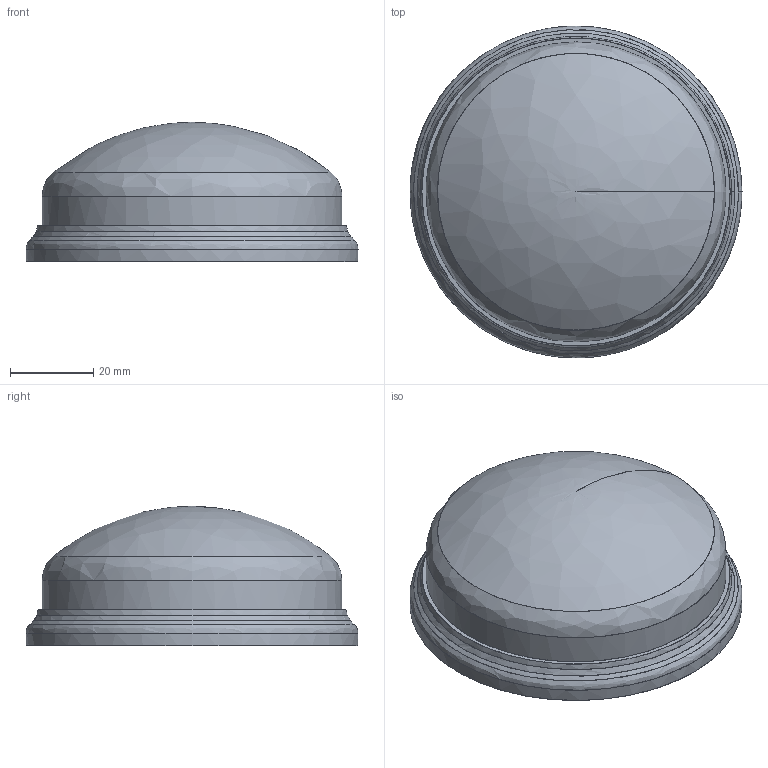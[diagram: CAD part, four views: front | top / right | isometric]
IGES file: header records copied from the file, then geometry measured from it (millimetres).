
Start section: C
Global section: file name: 022-K01-07.igs; native system: By Siemens PLM Incorporated; preprocessor: XPlus GENERIC/IGES 23.0.61; author: Author; organization: Title; date: 20231004.082438; units: millimetre
Bounding box: 79.7 x 79.65 x 33.4 mm (x, y, z)
Surface area: 18743.7 mm2 (no closed solid volume)
Topology: 0 solids, 0 shells, 40 faces, 229 edges, 228 vertices
Faces by surface type: bspline 40
